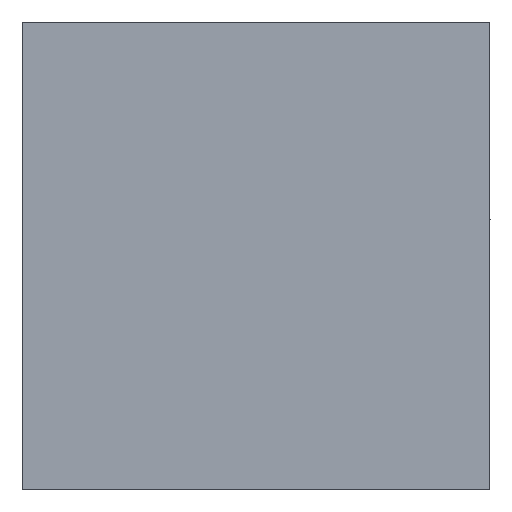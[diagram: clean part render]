
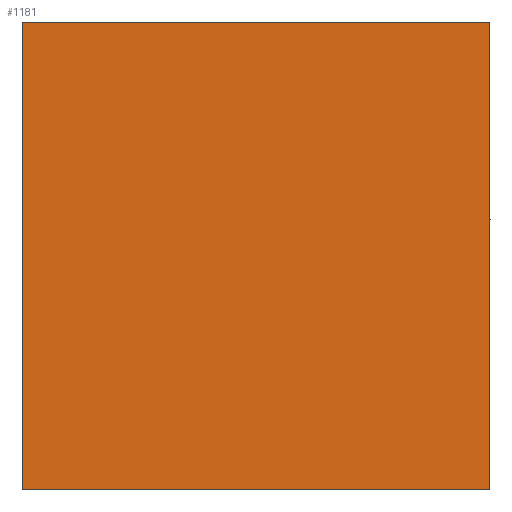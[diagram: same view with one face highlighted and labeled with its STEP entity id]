
A CAD part, front view. The second image highlights one B-rep face of the part: STEP entity #1181.
In plain terms, the highlighted planar face has unit normal (0, -1, 0).
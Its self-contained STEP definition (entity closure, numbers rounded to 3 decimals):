
#681=CARTESIAN_POINT('Vertex',(-20.,0.,20.)) ;
#684=CARTESIAN_POINT('Line Origine',(0.,0.,20.)) ;
#688=CARTESIAN_POINT('Vertex',(20.,0.,20.)) ;
#713=CARTESIAN_POINT('Vertex',(20.,0.,-20.)) ;
#716=CARTESIAN_POINT('Line Origine',(20.,0.,0.)) ;
#902=CARTESIAN_POINT('Vertex',(-20.,0.,-20.)) ;
#905=CARTESIAN_POINT('Line Origine',(0.,0.,-20.)) ;
#1089=CARTESIAN_POINT('Line Origine',(-20.,0.,0.)) ;
#1170=CARTESIAN_POINT('Axis2P3D Location',(0.,0.,-0.)) ;
#685=DIRECTION('Vector Direction',(1.,0.,0.)) ;
#717=DIRECTION('Vector Direction',(0.,0.,-1.)) ;
#906=DIRECTION('Vector Direction',(-1.,0.,0.)) ;
#1090=DIRECTION('Vector Direction',(0.,0.,1.)) ;
#1171=DIRECTION('Axis2P3D Direction',(0.,1.,-0.)) ;
#1172=DIRECTION('Axis2P3D XDirection',(0.,0.,1.)) ;
#1173=AXIS2_PLACEMENT_3D('Plane Axis2P3D',#1170,#1171,#1172) ;
#1176=ORIENTED_EDGE('',*,*,#909,.F.) ;
#1177=ORIENTED_EDGE('',*,*,#720,.F.) ;
#1178=ORIENTED_EDGE('',*,*,#690,.F.) ;
#1179=ORIENTED_EDGE('',*,*,#1093,.F.) ;
#686=VECTOR('Line Direction',#685,1.) ;
#718=VECTOR('Line Direction',#717,1.) ;
#907=VECTOR('Line Direction',#906,1.) ;
#1091=VECTOR('Line Direction',#1090,1.) ;
#1181=ADVANCED_FACE('395V-04-040-120',(#1180),#1174,.F.) ;
#690=EDGE_CURVE('',#682,#689,#687,.T.) ;
#720=EDGE_CURVE('',#689,#714,#719,.T.) ;
#909=EDGE_CURVE('',#714,#903,#908,.T.) ;
#1093=EDGE_CURVE('',#903,#682,#1092,.T.) ;
#1175=EDGE_LOOP('',(#1176,#1177,#1178,#1179)) ;
#1180=FACE_OUTER_BOUND('',#1175,.T.) ;
#687=LINE('Line',#684,#686) ;
#719=LINE('Line',#716,#718) ;
#908=LINE('Line',#905,#907) ;
#1092=LINE('Line',#1089,#1091) ;
#1174=PLANE('Plane',#1173) ;
#682=VERTEX_POINT('',#681) ;
#689=VERTEX_POINT('',#688) ;
#714=VERTEX_POINT('',#713) ;
#903=VERTEX_POINT('',#902) ;
